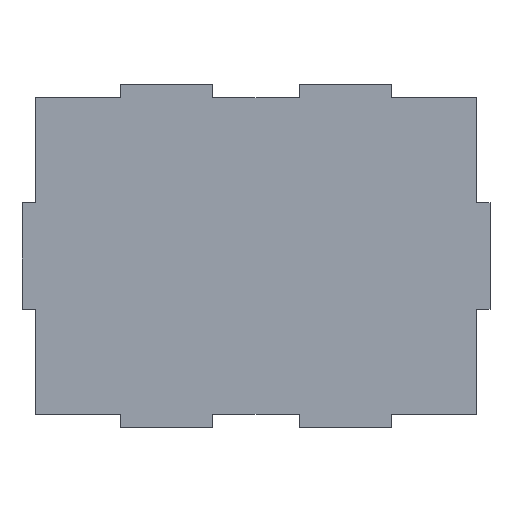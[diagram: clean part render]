
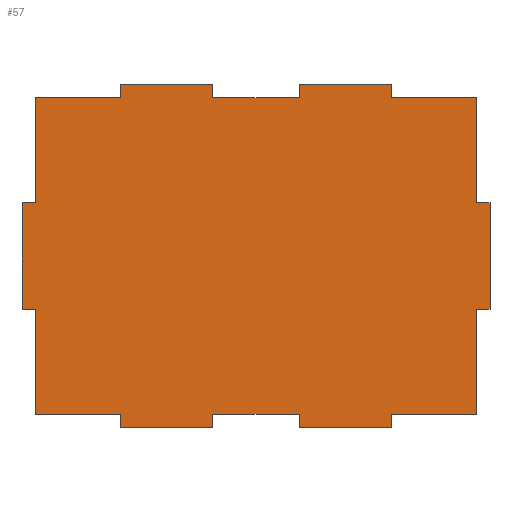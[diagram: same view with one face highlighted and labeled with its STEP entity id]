
A CAD part, top view. The second image highlights one B-rep face of the part: STEP entity #57.
In plain terms, the highlighted planar face has unit normal (0, 0, 1).
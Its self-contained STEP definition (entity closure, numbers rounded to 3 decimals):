
#21 = EDGE_CURVE('',#22,#24,#26,.T.);
#22 = VERTEX_POINT('',#23);
#23 = CARTESIAN_POINT('',(-20.6,-26.1,0.));
#24 = VERTEX_POINT('',#25);
#25 = CARTESIAN_POINT('',(-6.6,-26.1,0.));
#26 = LINE('',#27,#28);
#27 = CARTESIAN_POINT('',(-35.6,-26.1,0.));
#28 = VECTOR('',#29,1.);
#29 = DIRECTION('',(1.,0.,0.));
#57 = ADVANCED_FACE('',(#58),#275,.T.);
#58 = FACE_BOUND('',#59,.T.);
#59 = EDGE_LOOP('',(#60,#70,#78,#86,#92,#93,#101,#109,#117,#125,#133,
    #141,#149,#157,#165,#173,#181,#189,#197,#205,#213,#221,#229,#237,
    #245,#253,#261,#269));
#60 = ORIENTED_EDGE('',*,*,#61,.T.);
#61 = EDGE_CURVE('',#62,#64,#66,.T.);
#62 = VERTEX_POINT('',#63);
#63 = CARTESIAN_POINT('',(-35.6,-8.1,0.));
#64 = VERTEX_POINT('',#65);
#65 = CARTESIAN_POINT('',(-33.6,-8.1,0.));
#66 = LINE('',#67,#68);
#67 = CARTESIAN_POINT('',(-35.6,-8.1,0.));
#68 = VECTOR('',#69,1.);
#69 = DIRECTION('',(1.,0.,0.));
#70 = ORIENTED_EDGE('',*,*,#71,.T.);
#71 = EDGE_CURVE('',#64,#72,#74,.T.);
#72 = VERTEX_POINT('',#73);
#73 = CARTESIAN_POINT('',(-33.6,-24.1,0.));
#74 = LINE('',#75,#76);
#75 = CARTESIAN_POINT('',(-33.6,-8.1,0.));
#76 = VECTOR('',#77,1.);
#77 = DIRECTION('',(0.,-1.,0.));
#78 = ORIENTED_EDGE('',*,*,#79,.T.);
#79 = EDGE_CURVE('',#72,#80,#82,.T.);
#80 = VERTEX_POINT('',#81);
#81 = CARTESIAN_POINT('',(-20.6,-24.1,0.));
#82 = LINE('',#83,#84);
#83 = CARTESIAN_POINT('',(-33.6,-24.1,0.));
#84 = VECTOR('',#85,1.);
#85 = DIRECTION('',(1.,0.,0.));
#86 = ORIENTED_EDGE('',*,*,#87,.T.);
#87 = EDGE_CURVE('',#80,#22,#88,.T.);
#88 = LINE('',#89,#90);
#89 = CARTESIAN_POINT('',(-20.6,-24.1,0.));
#90 = VECTOR('',#91,1.);
#91 = DIRECTION('',(0.,-1.,0.));
#92 = ORIENTED_EDGE('',*,*,#21,.T.);
#93 = ORIENTED_EDGE('',*,*,#94,.T.);
#94 = EDGE_CURVE('',#24,#95,#97,.T.);
#95 = VERTEX_POINT('',#96);
#96 = CARTESIAN_POINT('',(-6.6,-24.1,0.));
#97 = LINE('',#98,#99);
#98 = CARTESIAN_POINT('',(-6.6,-26.1,0.));
#99 = VECTOR('',#100,1.);
#100 = DIRECTION('',(0.,1.,0.));
#101 = ORIENTED_EDGE('',*,*,#102,.T.);
#102 = EDGE_CURVE('',#95,#103,#105,.T.);
#103 = VERTEX_POINT('',#104);
#104 = CARTESIAN_POINT('',(6.6,-24.1,0.));
#105 = LINE('',#106,#107);
#106 = CARTESIAN_POINT('',(-6.6,-24.1,0.));
#107 = VECTOR('',#108,1.);
#108 = DIRECTION('',(1.,0.,0.));
#109 = ORIENTED_EDGE('',*,*,#110,.T.);
#110 = EDGE_CURVE('',#103,#111,#113,.T.);
#111 = VERTEX_POINT('',#112);
#112 = CARTESIAN_POINT('',(6.6,-26.1,0.));
#113 = LINE('',#114,#115);
#114 = CARTESIAN_POINT('',(6.6,-24.1,0.));
#115 = VECTOR('',#116,1.);
#116 = DIRECTION('',(0.,-1.,0.));
#117 = ORIENTED_EDGE('',*,*,#118,.T.);
#118 = EDGE_CURVE('',#111,#119,#121,.T.);
#119 = VERTEX_POINT('',#120);
#120 = CARTESIAN_POINT('',(20.6,-26.1,0.));
#121 = LINE('',#122,#123);
#122 = CARTESIAN_POINT('',(-35.6,-26.1,0.));
#123 = VECTOR('',#124,1.);
#124 = DIRECTION('',(1.,0.,0.));
#125 = ORIENTED_EDGE('',*,*,#126,.T.);
#126 = EDGE_CURVE('',#119,#127,#129,.T.);
#127 = VERTEX_POINT('',#128);
#128 = CARTESIAN_POINT('',(20.6,-24.1,0.));
#129 = LINE('',#130,#131);
#130 = CARTESIAN_POINT('',(20.6,-26.1,0.));
#131 = VECTOR('',#132,1.);
#132 = DIRECTION('',(0.,1.,0.));
#133 = ORIENTED_EDGE('',*,*,#134,.T.);
#134 = EDGE_CURVE('',#127,#135,#137,.T.);
#135 = VERTEX_POINT('',#136);
#136 = CARTESIAN_POINT('',(33.6,-24.1,0.));
#137 = LINE('',#138,#139);
#138 = CARTESIAN_POINT('',(20.6,-24.1,0.));
#139 = VECTOR('',#140,1.);
#140 = DIRECTION('',(1.,0.,0.));
#141 = ORIENTED_EDGE('',*,*,#142,.T.);
#142 = EDGE_CURVE('',#135,#143,#145,.T.);
#143 = VERTEX_POINT('',#144);
#144 = CARTESIAN_POINT('',(33.6,-8.1,0.));
#145 = LINE('',#146,#147);
#146 = CARTESIAN_POINT('',(33.6,-26.1,0.));
#147 = VECTOR('',#148,1.);
#148 = DIRECTION('',(0.,1.,0.));
#149 = ORIENTED_EDGE('',*,*,#150,.T.);
#150 = EDGE_CURVE('',#143,#151,#153,.T.);
#151 = VERTEX_POINT('',#152);
#152 = CARTESIAN_POINT('',(35.6,-8.1,0.));
#153 = LINE('',#154,#155);
#154 = CARTESIAN_POINT('',(33.6,-8.1,0.));
#155 = VECTOR('',#156,1.);
#156 = DIRECTION('',(1.,0.,0.));
#157 = ORIENTED_EDGE('',*,*,#158,.T.);
#158 = EDGE_CURVE('',#151,#159,#161,.T.);
#159 = VERTEX_POINT('',#160);
#160 = CARTESIAN_POINT('',(35.6,8.1,0.));
#161 = LINE('',#162,#163);
#162 = CARTESIAN_POINT('',(35.6,-26.1,0.));
#163 = VECTOR('',#164,1.);
#164 = DIRECTION('',(0.,1.,0.));
#165 = ORIENTED_EDGE('',*,*,#166,.T.);
#166 = EDGE_CURVE('',#159,#167,#169,.T.);
#167 = VERTEX_POINT('',#168);
#168 = CARTESIAN_POINT('',(33.6,8.1,0.));
#169 = LINE('',#170,#171);
#170 = CARTESIAN_POINT('',(35.6,8.1,0.));
#171 = VECTOR('',#172,1.);
#172 = DIRECTION('',(-1.,0.,0.));
#173 = ORIENTED_EDGE('',*,*,#174,.T.);
#174 = EDGE_CURVE('',#167,#175,#177,.T.);
#175 = VERTEX_POINT('',#176);
#176 = CARTESIAN_POINT('',(33.6,24.1,0.));
#177 = LINE('',#178,#179);
#178 = CARTESIAN_POINT('',(33.6,8.1,0.));
#179 = VECTOR('',#180,1.);
#180 = DIRECTION('',(0.,1.,0.));
#181 = ORIENTED_EDGE('',*,*,#182,.T.);
#182 = EDGE_CURVE('',#175,#183,#185,.T.);
#183 = VERTEX_POINT('',#184);
#184 = CARTESIAN_POINT('',(20.6,24.1,0.));
#185 = LINE('',#186,#187);
#186 = CARTESIAN_POINT('',(33.6,24.1,0.));
#187 = VECTOR('',#188,1.);
#188 = DIRECTION('',(-1.,0.,0.));
#189 = ORIENTED_EDGE('',*,*,#190,.T.);
#190 = EDGE_CURVE('',#183,#191,#193,.T.);
#191 = VERTEX_POINT('',#192);
#192 = CARTESIAN_POINT('',(20.6,26.1,0.));
#193 = LINE('',#194,#195);
#194 = CARTESIAN_POINT('',(20.6,24.1,0.));
#195 = VECTOR('',#196,1.);
#196 = DIRECTION('',(0.,1.,0.));
#197 = ORIENTED_EDGE('',*,*,#198,.T.);
#198 = EDGE_CURVE('',#191,#199,#201,.T.);
#199 = VERTEX_POINT('',#200);
#200 = CARTESIAN_POINT('',(6.6,26.1,0.));
#201 = LINE('',#202,#203);
#202 = CARTESIAN_POINT('',(35.6,26.1,0.));
#203 = VECTOR('',#204,1.);
#204 = DIRECTION('',(-1.,0.,0.));
#205 = ORIENTED_EDGE('',*,*,#206,.T.);
#206 = EDGE_CURVE('',#199,#207,#209,.T.);
#207 = VERTEX_POINT('',#208);
#208 = CARTESIAN_POINT('',(6.6,24.1,0.));
#209 = LINE('',#210,#211);
#210 = CARTESIAN_POINT('',(6.6,26.1,0.));
#211 = VECTOR('',#212,1.);
#212 = DIRECTION('',(0.,-1.,0.));
#213 = ORIENTED_EDGE('',*,*,#214,.T.);
#214 = EDGE_CURVE('',#207,#215,#217,.T.);
#215 = VERTEX_POINT('',#216);
#216 = CARTESIAN_POINT('',(-6.6,24.1,0.));
#217 = LINE('',#218,#219);
#218 = CARTESIAN_POINT('',(6.6,24.1,0.));
#219 = VECTOR('',#220,1.);
#220 = DIRECTION('',(-1.,0.,0.));
#221 = ORIENTED_EDGE('',*,*,#222,.T.);
#222 = EDGE_CURVE('',#215,#223,#225,.T.);
#223 = VERTEX_POINT('',#224);
#224 = CARTESIAN_POINT('',(-6.6,26.1,0.));
#225 = LINE('',#226,#227);
#226 = CARTESIAN_POINT('',(-6.6,24.1,0.));
#227 = VECTOR('',#228,1.);
#228 = DIRECTION('',(0.,1.,0.));
#229 = ORIENTED_EDGE('',*,*,#230,.T.);
#230 = EDGE_CURVE('',#223,#231,#233,.T.);
#231 = VERTEX_POINT('',#232);
#232 = CARTESIAN_POINT('',(-20.6,26.1,0.));
#233 = LINE('',#234,#235);
#234 = CARTESIAN_POINT('',(35.6,26.1,0.));
#235 = VECTOR('',#236,1.);
#236 = DIRECTION('',(-1.,0.,0.));
#237 = ORIENTED_EDGE('',*,*,#238,.T.);
#238 = EDGE_CURVE('',#231,#239,#241,.T.);
#239 = VERTEX_POINT('',#240);
#240 = CARTESIAN_POINT('',(-20.6,24.1,0.));
#241 = LINE('',#242,#243);
#242 = CARTESIAN_POINT('',(-20.6,26.1,0.));
#243 = VECTOR('',#244,1.);
#244 = DIRECTION('',(0.,-1.,0.));
#245 = ORIENTED_EDGE('',*,*,#246,.T.);
#246 = EDGE_CURVE('',#239,#247,#249,.T.);
#247 = VERTEX_POINT('',#248);
#248 = CARTESIAN_POINT('',(-33.6,24.1,0.));
#249 = LINE('',#250,#251);
#250 = CARTESIAN_POINT('',(-20.6,24.1,0.));
#251 = VECTOR('',#252,1.);
#252 = DIRECTION('',(-1.,0.,0.));
#253 = ORIENTED_EDGE('',*,*,#254,.T.);
#254 = EDGE_CURVE('',#247,#255,#257,.T.);
#255 = VERTEX_POINT('',#256);
#256 = CARTESIAN_POINT('',(-33.6,8.1,0.));
#257 = LINE('',#258,#259);
#258 = CARTESIAN_POINT('',(-33.6,26.1,0.));
#259 = VECTOR('',#260,1.);
#260 = DIRECTION('',(0.,-1.,0.));
#261 = ORIENTED_EDGE('',*,*,#262,.T.);
#262 = EDGE_CURVE('',#255,#263,#265,.T.);
#263 = VERTEX_POINT('',#264);
#264 = CARTESIAN_POINT('',(-35.6,8.1,0.));
#265 = LINE('',#266,#267);
#266 = CARTESIAN_POINT('',(-33.6,8.1,0.));
#267 = VECTOR('',#268,1.);
#268 = DIRECTION('',(-1.,0.,0.));
#269 = ORIENTED_EDGE('',*,*,#270,.T.);
#270 = EDGE_CURVE('',#263,#62,#271,.T.);
#271 = LINE('',#272,#273);
#272 = CARTESIAN_POINT('',(-35.6,26.1,0.));
#273 = VECTOR('',#274,1.);
#274 = DIRECTION('',(0.,-1.,0.));
#275 = PLANE('',#276);
#276 = AXIS2_PLACEMENT_3D('',#277,#278,#279);
#277 = CARTESIAN_POINT('',(0.,0.,0.));
#278 = DIRECTION('',(0.,0.,1.));
#279 = DIRECTION('',(1.,0.,0.));
